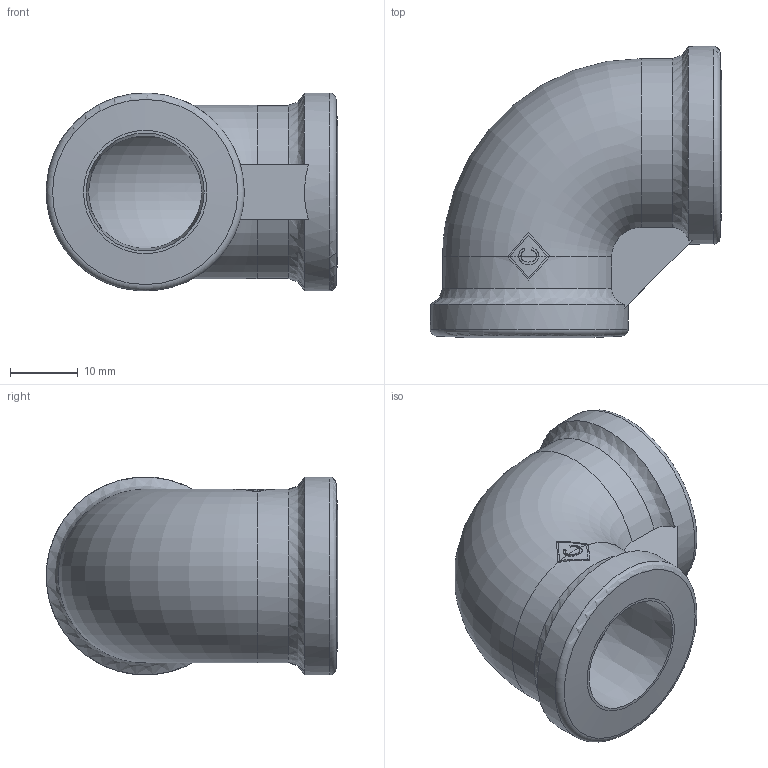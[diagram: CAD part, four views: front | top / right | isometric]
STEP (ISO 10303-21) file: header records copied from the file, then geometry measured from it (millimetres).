
FILE_DESCRIPTION((''),'2;1');
FILE_NAME('P:\Fastrack\53909_CRANE\Crane\Fig.151 Elbow\New 0.50 inch\151-0.50.stp','2009-09-15T10:26:15',('btaylor'),(''),'Autodesk Inventor 2008','Autodesk Inventor 2008','');
FILE_SCHEMA(('AUTOMOTIVE_DESIGN { 1 0 10303 214 1 1 1 1 }'));
Length unit declared in the file: millimetre
Products named in the file (1): 151-0.50
Bounding box: 42.99 x 42.99 x 29.19 mm (x, y, z)
Volume: 14021.4 mm3; surface area: 8098.4 mm2
Topology: 1 solids, 1 shells, 47 faces, 149 edges, 104 vertices
Faces by surface type: plane 15, bspline 12, torus 8, cylinder 8, cone 4
Full cylindrical faces by diameter (mm): 29.2 x2
Entity records: 2956 total; most frequent: CARTESIAN_POINT 1742, ORIENTED_EDGE 276, DIRECTION 196, EDGE_CURVE 138, VERTEX_POINT 102, AXIS2_PLACEMENT_3D 84, B_SPLINE_CURVE_WITH_KNOTS 62, EDGE_LOOP 58
